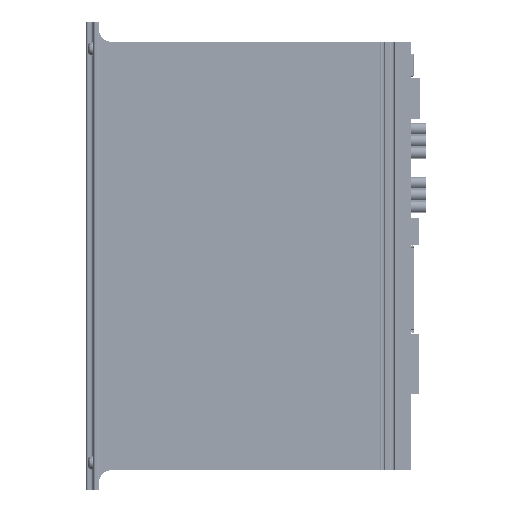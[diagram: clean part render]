
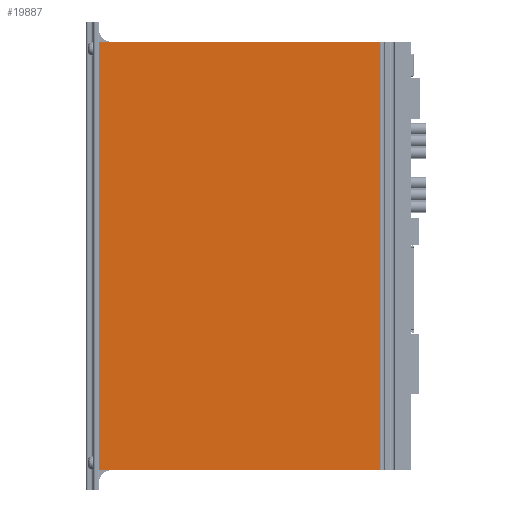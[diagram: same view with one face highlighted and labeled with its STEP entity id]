
A CAD part, front view. The second image highlights one B-rep face of the part: STEP entity #19887.
In plain terms, the highlighted planar face has unit normal (0, -1, 0) as drawn and (-1, 0, 0) by its records, which use the part's own axes.
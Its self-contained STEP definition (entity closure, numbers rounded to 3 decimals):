
#8974=DIRECTION('',(0.,-1.,0.));
#8975=VECTOR('',#8974,179.4);
#8976=CARTESIAN_POINT('',(-23.5,89.7,13.));
#8977=LINE('',#8976,#8975);
#8981=DIRECTION('',(0.,0.,-1.));
#8982=VECTOR('',#8981,118.1);
#8983=CARTESIAN_POINT('',(-23.5,89.7,131.1));
#8984=LINE('',#8983,#8982);
#8988=DIRECTION('',(0.,0.,-1.));
#8989=VECTOR('',#8988,118.1);
#8990=CARTESIAN_POINT('',(-23.5,-89.7,131.1));
#8991=LINE('',#8990,#8989);
#11291=DIRECTION('',(0.,-1.,0.));
#11292=VECTOR('',#11291,179.4);
#11293=CARTESIAN_POINT('',(-23.5,89.7,131.1));
#11294=LINE('',#11293,#11292);
#18056=CARTESIAN_POINT('',(-23.5,-89.7,131.1));
#18058=VERTEX_POINT('',#18056);
#18085=CARTESIAN_POINT('',(-23.5,89.7,131.1));
#18087=VERTEX_POINT('',#18085);
#18696=CARTESIAN_POINT('',(-23.5,89.7,13.));
#18697=CARTESIAN_POINT('',(-23.5,-89.7,13.));
#18698=VERTEX_POINT('',#18696);
#18699=VERTEX_POINT('',#18697);
#19872=CARTESIAN_POINT('',(-23.5,90.,0.));
#19873=DIRECTION('',(-1.,0.,0.));
#19874=DIRECTION('',(0.,-1.,0.));
#19875=AXIS2_PLACEMENT_3D('',#19872,#19873,#19874);
#19876=PLANE('',#19875);
#19878=ORIENTED_EDGE('',*,*,#19877,.F.);
#19880=ORIENTED_EDGE('',*,*,#19879,.F.);
#19882=ORIENTED_EDGE('',*,*,#19881,.T.);
#19884=ORIENTED_EDGE('',*,*,#19883,.T.);
#19885=EDGE_LOOP('',(#19878,#19880,#19882,#19884));
#19886=FACE_OUTER_BOUND('',#19885,.F.);
#19877=EDGE_CURVE('',#18698,#18699,#8977,.T.);
#19879=EDGE_CURVE('',#18087,#18698,#8984,.T.);
#19881=EDGE_CURVE('',#18087,#18058,#11294,.T.);
#19883=EDGE_CURVE('',#18058,#18699,#8991,.T.);
#19887=ADVANCED_FACE('',(#19886),#19876,.T.);
